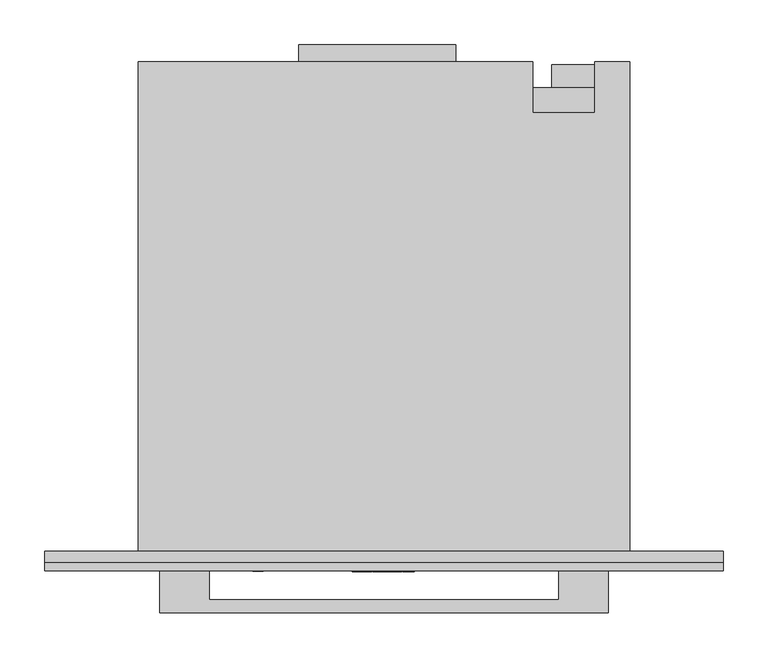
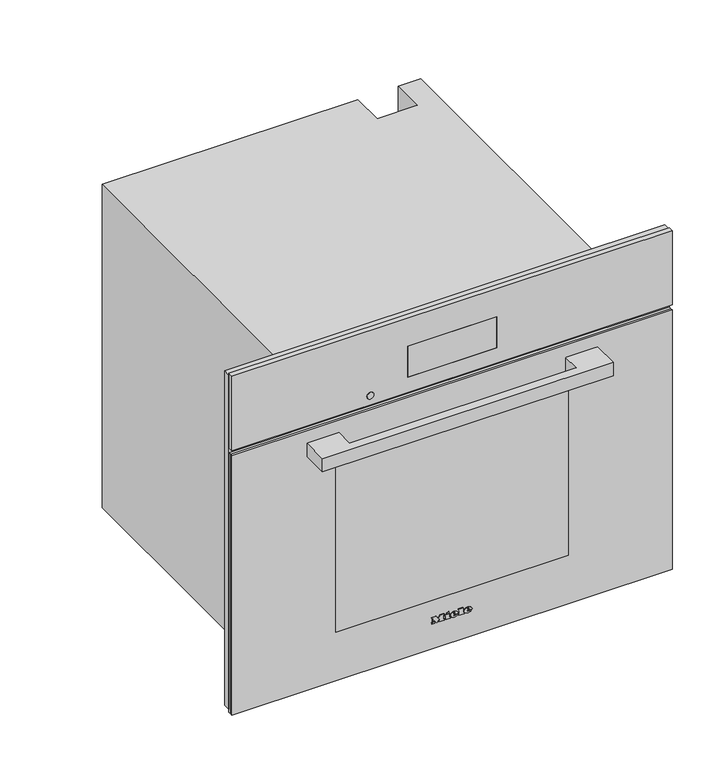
"""IFC4 building model written with IfcOpenShell, lengths in millimetres: proxy geometry, 11876420_USA_DGC7880_OBSW : 23788023_USA_11876420_DGC7880_OBSW."""

from ifc_helpers import new_model, si_unit, point, frame, frame_2d, origin, place, context, project, spatial, polyline, circle_curve, ellipse_curve, trimmed, segment, composite_curve, outline, extrude, faceted_brep, source, transform, mapped, element, save
from ifc_brep_helpers import plane_surface, cylinder_surface, revolved_surface, extruded_surface, advanced_brep


def specialty_equipment_2a973225(model_context):
    return source(origin(), model_context, "Body", "SolidModel", [
        faceted_brep([(378.5, -13.0, 617.0), (-378.5, -13.0, 617.0), (-378.5, -13.0, 9.0), (-272.5, -13.0, 9.0), (-272.5, -13.0, 485.0), (272.5, -13.0, 485.0), (272.5, -13.0, 9.0), (378.5, -13.0, 9.0), (378.5, 0.0, 617.0), (378.5, 0.0, 9.0), (-378.5, 0.0, 9.0), (-378.5, 0.0, 617.0), (231.0, 0.0, 61.0), (231.0, 0.0, 411.0), (-231.0, 0.0, 411.0), (-231.0, 0.0, 61.0), (272.5, -5.0, 9.0), (-272.5, -5.0, 9.0), (-272.5, -5.0, 485.0), (272.5, -5.0, 485.0), (231.0, -5.0, 411.0), (231.0, -5.0, 61.0), (-231.0, -5.0, 61.0), (-231.0, -5.0, 411.0)], [[[0, 1, 2, 3, 4, 5, 6, 7]], [[8, 9, 10, 11], [12, 13, 14, 15]], [[1, 0, 8, 11]], [[2, 1, 11, 10]], [[10, 9, 7, 6, 16, 17, 3, 2]], [[0, 7, 9, 8]], [[18, 19, 5, 4]], [[18, 4, 3, 17]], [[5, 19, 16, 6]], [[19, 18, 17, 16], [20, 21, 22, 23]], [[20, 13, 12, 21]], [[21, 12, 15, 22]], [[22, 15, 14, 23]], [[13, 20, 23, 14]]]),
        extrude(outline(polyline([(-95.0, 565.0), (80.0, 565.0), (80.0, 546.0), (-95.0, 546.0), (-95.0, 565.0)])), frame((0.0, 0.0, 311.0), z_axis=(0.0, 0.0, 1.0), x_axis=(1.0, 0.0, 0.0)), (0.0, 0.0, 1.0), 1.0),
        extrude(outline(polyline([(218.8383288, 522.0), (225.1236409, 522.0), (225.1236409, 511.9492425), (223.8571792, 511.9492425), (223.8571792, 520.7409796), (218.8383288, 520.7409796), (218.8383288, 522.0)])), frame((0.0, 0.0, 272.0), z_axis=(0.0, 0.0, 1.0), x_axis=(1.0, 0.0, 0.0)), (0.0, 0.0, 1.0), 1.0),
        extrude(outline(polyline([(227.0, 522.0), (234.3797826, 522.0), (234.3797826, 511.9503529), (227.15422, 511.9503529), (227.15422, 513.220938), (233.1355215, 513.220938), (233.1355215, 516.1975645), (227.4863097, 516.1975645), (227.4863097, 517.449242), (233.1355215, 517.449242), (233.1355215, 520.7448633), (227.0, 520.7448633), (227.0, 522.0)])), frame((0.0, 0.0, 272.0), z_axis=(0.0, 0.0, 1.0), x_axis=(1.0, 0.0, 0.0)), (0.0, 0.0, 1.0), 1.0),
        extrude(outline(composite_curve([segment(trimmed(circle_curve(frame_2d((227.0, 517.0)), 7.5), [point((219.5, 517.0))], [point((234.5, 517.0))], False, "CARTESIAN"), True, "CONTINUOUS"), segment(trimmed(circle_curve(frame_2d((227.0, 517.0)), 7.5), [point((234.5, 517.0))], [point((219.5, 517.0))], False, "CARTESIAN"), True, "CONTINUOUS")], self_intersect=False)), frame((0.0, 0.0, 273.0), z_axis=(0.0, 0.0, 1.0), x_axis=(1.0, 0.0, 0.0)), (0.0, 0.0, 1.0), 30.0),
        extrude(outline(polyline([(266.0, 517.0), (187.0, 517.0), (187.0, 543.0), (266.0, 543.0), (266.0, 517.0)])), frame((0.0, 0.0, 303.0), z_axis=(0.0, 0.0, 1.0), x_axis=(1.0, 0.0, 0.0)), (0.0, 0.0, 1.0), 111.0),
        faceted_brep([(-274.0, 546.0, 0.0), (-274.0, 546.0, 588.0), (166.0, 546.0, 588.0), (166.0, 546.0, 0.0), (235.0, 546.0, 588.0), (274.0, 546.0, 588.0), (274.0, 546.0, 478.0), (235.0, 546.0, 478.0), (274.0, 0.0, 588.0), (-274.0, 0.0, 588.0), (-274.0, 0.0, 0.0), (274.0, 0.0, 0.0), (231.0, 0.0, 411.0), (231.0, 0.0, 61.0), (-231.0, 0.0, 61.0), (-231.0, 0.0, 411.0), (235.0, 489.0, 588.0), (166.0, 489.0, 588.0), (166.0, 517.0, 0.0), (274.0, 517.0, 0.0), (274.0, 517.0, 478.0), (231.0, 411.0, 411.0), (-231.0, 411.0, 411.0), (-231.0, 411.0, 61.0), (231.0, 411.0, 61.0), (235.0, 489.0, 477.0), (166.0, 489.0, 477.0), (166.0, 517.0, 477.0), (235.0, 517.0, 477.0), (235.0, 517.0, 478.0)], [[[0, 1, 2, 3]], [[4, 5, 6, 7]], [[8, 9, 10, 11], [12, 13, 14, 15]], [[9, 8, 5, 4, 16, 17, 2, 1]], [[1, 0, 10, 9]], [[11, 10, 0, 3, 18, 19]], [[8, 11, 19, 20, 6, 5]], [[21, 22, 23, 24]], [[21, 24, 13, 12]], [[24, 23, 14, 13]], [[23, 22, 15, 14]], [[22, 21, 12, 15]], [[16, 25, 26, 17]], [[17, 26, 27, 18, 3, 2]], [[26, 25, 28, 27]], [[25, 16, 4, 7, 29, 28]], [[29, 20, 19, 18, 27, 28]], [[20, 29, 7, 6]]]),
        advanced_brep(
        [(26.2998, -23.0, 52.7018), (26.2998, -23.0, 53.8532), (33.9264, -23.0, 53.8532), (20.6568, -23.0, 53.8532), (23.7918, -23.0, 50.0), (33.7326, -23.0, 52.7018), (30.2898, -23.0, 52.7018), (27.5766, -23.0, 51.425), (26.2998, -23.0, 55.3124), (26.2998, -23.0, 56.555), (28.2492, -23.0, 56.555), (28.2492, -23.0, 55.3124), (26.2998, -22.0, 52.7018), (27.5766, -22.0, 51.425), (30.2898, -22.0, 52.7018), (33.7326, -22.0, 52.7018), (23.7918, -22.0, 50.0), (20.6568, -22.0, 53.8532), (33.9264, -22.0, 53.8532), (26.2998, -22.0, 53.8532), (26.2998, -22.0, 55.3124), (28.2492, -22.0, 55.3124), (28.2492, -22.0, 56.555), (26.2998, -22.0, 56.555)],
        [
            (0, 1),
            (1, 2),
            (2, 3, ellipse_curve(frame((27.2916, -23.0, 53.8532), z_axis=(0.0, -1.0, 0.0), x_axis=(-1.0, 0.0, 0.0)), 6.6348, 5.4834)),
            (3, 4, circle_curve(frame((25.0686622, -23.0, 54.2408), z_axis=(0.0, -1.0, 0.0), x_axis=(0.0, 0.0, -1.0)), 4.4288556)),
            (4, 5, circle_curve(frame((27.1587808, -23.0, 57.2504), z_axis=(0.0, -1.0, 0.0), x_axis=(0.0, 0.0, -1.0)), 7.9940516)),
            (5, 6),
            (6, 7, circle_curve(frame((28.1338588, -23.0, 53.762), z_axis=(0.0, 1.0, 0.0), x_axis=(0.0, 0.0, -1.0)), 2.4025208)),
            (7, 0, circle_curve(frame((27.5766, -23.0, 52.7018), z_axis=(0.0, 1.0, 0.0), x_axis=(0.0, 0.0, -1.0)), 1.2768)),
            (8, 9),
            (9, 10, circle_curve(frame((27.2745, -23.0, 56.555), z_axis=(0.0, 1.0, 0.0), x_axis=(0.0, 0.0, -1.0)), 0.9747)),
            (10, 11),
            (11, 8),
            (12, 13, circle_curve(frame((27.5766, -22.0, 52.7018), z_axis=(0.0, -1.0, 0.0), x_axis=(0.0, 0.0, -1.0)), 1.2768)),
            (13, 14, circle_curve(frame((28.1338588, -22.0, 53.762), z_axis=(0.0, -1.0, 0.0), x_axis=(0.0, 0.0, -1.0)), 2.4025208)),
            (14, 15),
            (15, 16, circle_curve(frame((27.1587808, -22.0, 57.2504), z_axis=(0.0, 1.0, 0.0), x_axis=(0.0, 0.0, -1.0)), 7.9940516)),
            (16, 17, circle_curve(frame((25.0686622, -22.0, 54.2408), z_axis=(0.0, 1.0, 0.0), x_axis=(0.0, 0.0, -1.0)), 4.4288556)),
            (17, 18, ellipse_curve(frame((27.2916, -22.0, 53.8532), z_axis=(0.0, 1.0, 0.0), x_axis=(-1.0, 0.0, 0.0)), 6.6348, 5.4834)),
            (18, 19),
            (19, 12),
            (20, 21),
            (21, 22),
            (22, 23, circle_curve(frame((27.2745, -22.0, 56.555), z_axis=(0.0, -1.0, 0.0), x_axis=(0.0, 0.0, -1.0)), 0.9747)),
            (23, 20),
            (0, 12),
            (19, 1),
            (18, 2),
            (5, 15),
            (14, 6),
            (17, 3),
            (13, 7),
            (16, 4),
            (8, 20),
            (23, 9),
            (22, 10),
            (21, 11),
        ],
        [
            plane_surface(frame((26.2998, -23.0, 53.8532), z_axis=(0.0, -1.0, 0.0), x_axis=(0.0, 0.0, 1.0))),
            plane_surface(frame((26.2998, -22.0, 53.8532), z_axis=(0.0, 1.0, 0.0), x_axis=(0.0, 0.0, -1.0))),
            plane_surface(frame((26.2998, -23.0, 52.7018), z_axis=(1.0, 0.0, 0.0), x_axis=(0.0, 1.0, 0.0))),
            plane_surface(frame((26.2998, -23.0, 53.8532), z_axis=(0.0, 0.0, -1.0), x_axis=(0.0, 1.0, 0.0))),
            plane_surface(frame((33.7326, -23.0, 52.7018), z_axis=(0.0, 0.0, 1.0), x_axis=(0.0, 1.0, 0.0))),
            extruded_surface(trimmed(ellipse_curve(frame((27.2916, -21.0, 53.8532), z_axis=(0.0, -1.0, 0.0), x_axis=(-1.0, 0.0, 0.0)), 6.6348, 5.4834), [point((33.9264, -21.0, 53.8532))], [point((20.6568, -21.0, 53.8532))], True, "CARTESIAN"), (0.0, -1.0, 0.0), 1.0),
            revolved_surface(polyline([(28.1338588, -22.0, 51.3594792), (28.1338588, -23.0, 51.3594792)]), (28.1338588, -22.0, 53.762), (0.0, 1.0, 0.0)),
            revolved_surface(polyline([(27.5766, -22.0, 51.425), (27.5766, -23.0, 51.425)]), (27.5766, -22.0, 52.7018), (0.0, 1.0, 0.0)),
            cylinder_surface(frame((25.0686622, -22.0, 54.2408), z_axis=(0.0, -1.0, 0.0), x_axis=(0.0, 0.0, -1.0)), 4.4288556),
            cylinder_surface(frame((27.1587808, -22.0, 57.2504), z_axis=(0.0, -1.0, 0.0), x_axis=(0.0, 0.0, -1.0)), 7.9940516),
            plane_surface(frame((26.2998, -23.0, 55.3124), z_axis=(1.0, 0.0, 0.0), x_axis=(0.0, 1.0, 0.0))),
            revolved_surface(polyline([(27.2745, -22.0, 55.5803), (27.2745, -23.0, 55.5803)]), (27.2745, -22.0, 56.555), (0.0, 1.0, 0.0)),
            plane_surface(frame((28.2492, -23.0, 56.555), z_axis=(-1.0, 0.0, 0.0), x_axis=(0.0, 1.0, 0.0))),
            plane_surface(frame((28.2492, -23.0, 55.3124), z_axis=(0.0, 0.0, 1.0), x_axis=(0.0, 1.0, 0.0))),
        ],
        [
            (0, [[1, 2, 3, 4, 5, 6, 7, 8], [9, 10, 11, 12]]),
            (1, [[13, 14, 15, 16, 17, 18, 19, 20], [21, 22, 23, 24]]),
            (2, [[-1, 25, -20, 26]]),
            (3, [[-2, -26, -19, 27]]),
            (4, [[-6, 28, -15, 29]]),
            (5, [[-3, -27, -18, 30]]),
            (6, [[-7, -29, -14, 31]]),
            (7, [[-8, -31, -13, -25]]),
            (8, [[-4, -30, -17, 32]]),
            (9, [[-5, -32, -16, -28]]),
            (10, [[-9, 33, -24, 34]]),
            (11, [[-10, -34, -23, 35]]),
            (12, [[-11, -35, -22, 36]]),
            (13, [[-12, -36, -21, -33]]),
        ],
    ),
        advanced_brep(
        [(2.508, -23.0, 52.7018), (2.508, -23.0, 53.8532), (10.1346, -23.0, 53.8532), (-3.135, -23.0, 53.8532), (0.0, -23.0, 50.0), (9.9408, -23.0, 52.7018), (6.498, -23.0, 52.7018), (3.7848, -23.0, 51.425), (2.508, -23.0, 55.3124), (2.508, -23.0, 56.555), (4.4574, -23.0, 56.555), (4.4574, -23.0, 55.3124), (2.508, -22.0, 52.7018), (3.7848, -22.0, 51.425), (6.498, -22.0, 52.7018), (9.9408, -22.0, 52.7018), (0.0, -22.0, 50.0), (-3.135, -22.0, 53.8532), (10.1346, -22.0, 53.8532), (2.508, -22.0, 53.8532), (2.508, -22.0, 55.3124), (4.4574, -22.0, 55.3124), (4.4574, -22.0, 56.555), (2.508, -22.0, 56.555)],
        [
            (0, 1),
            (1, 2),
            (2, 3, ellipse_curve(frame((3.4998, -23.0, 53.8532), z_axis=(0.0, -1.0, 0.0), x_axis=(-1.0, 0.0, 0.0)), 6.6348, 5.4834)),
            (3, 4, circle_curve(frame((1.2768622, -23.0, 54.2408), z_axis=(0.0, -1.0, 0.0), x_axis=(0.0, 0.0, -1.0)), 4.4288556)),
            (4, 5, circle_curve(frame((3.3669808, -23.0, 57.2504), z_axis=(0.0, -1.0, 0.0), x_axis=(0.0, 0.0, -1.0)), 7.9940516)),
            (5, 6),
            (6, 7, circle_curve(frame((4.3420588, -23.0, 53.762), z_axis=(0.0, 1.0, 0.0), x_axis=(0.0, 0.0, -1.0)), 2.4025208)),
            (7, 0, circle_curve(frame((3.7848, -23.0, 52.7018), z_axis=(0.0, 1.0, 0.0), x_axis=(0.0, 0.0, -1.0)), 1.2768)),
            (8, 9),
            (9, 10, circle_curve(frame((3.4827, -23.0, 56.555), z_axis=(0.0, 1.0, 0.0), x_axis=(0.0, 0.0, -1.0)), 0.9747)),
            (10, 11),
            (11, 8),
            (12, 13, circle_curve(frame((3.7848, -22.0, 52.7018), z_axis=(0.0, -1.0, 0.0), x_axis=(0.0, 0.0, -1.0)), 1.2768)),
            (13, 14, circle_curve(frame((4.3420588, -22.0, 53.762), z_axis=(0.0, -1.0, 0.0), x_axis=(0.0, 0.0, -1.0)), 2.4025208)),
            (14, 15),
            (15, 16, circle_curve(frame((3.3669808, -22.0, 57.2504), z_axis=(0.0, 1.0, 0.0), x_axis=(0.0, 0.0, -1.0)), 7.9940516)),
            (16, 17, circle_curve(frame((1.2768622, -22.0, 54.2408), z_axis=(0.0, 1.0, 0.0), x_axis=(0.0, 0.0, -1.0)), 4.4288556)),
            (17, 18, ellipse_curve(frame((3.4998, -22.0, 53.8532), z_axis=(0.0, 1.0, 0.0), x_axis=(-1.0, 0.0, 0.0)), 6.6348, 5.4834)),
            (18, 19),
            (19, 12),
            (20, 21),
            (21, 22),
            (22, 23, circle_curve(frame((3.4827, -22.0, 56.555), z_axis=(0.0, -1.0, 0.0), x_axis=(0.0, 0.0, -1.0)), 0.9747)),
            (23, 20),
            (0, 12),
            (19, 1),
            (18, 2),
            (5, 15),
            (14, 6),
            (17, 3),
            (13, 7),
            (16, 4),
            (8, 20),
            (23, 9),
            (22, 10),
            (21, 11),
        ],
        [
            plane_surface(frame((2.508, -23.0, 53.8532), z_axis=(0.0, -1.0, 0.0), x_axis=(0.0, 0.0, 1.0))),
            plane_surface(frame((2.508, -22.0, 53.8532), z_axis=(0.0, 1.0, 0.0), x_axis=(0.0, 0.0, -1.0))),
            plane_surface(frame((2.508, -23.0, 52.7018), z_axis=(1.0, 0.0, 0.0), x_axis=(0.0, 1.0, 0.0))),
            plane_surface(frame((2.508, -23.0, 53.8532), z_axis=(0.0, 0.0, -1.0), x_axis=(0.0, 1.0, 0.0))),
            plane_surface(frame((9.9408, -23.0, 52.7018), z_axis=(0.0, 0.0, 1.0), x_axis=(0.0, 1.0, 0.0))),
            extruded_surface(trimmed(ellipse_curve(frame((3.4998, -21.0, 53.8532), z_axis=(0.0, -1.0, 0.0), x_axis=(-1.0, 0.0, 0.0)), 6.6348, 5.4834), [point((10.1346, -21.0, 53.8532))], [point((-3.135, -21.0, 53.8532))], True, "CARTESIAN"), (0.0, -1.0, 0.0), 1.0),
            revolved_surface(polyline([(4.3420588, -22.0, 51.3594792), (4.3420588, -23.0, 51.3594792)]), (4.3420588, -22.0, 53.762), (0.0, 1.0, 0.0)),
            revolved_surface(polyline([(3.7848, -22.0, 51.425), (3.7848, -23.0, 51.425)]), (3.7848, -22.0, 52.7018), (0.0, 1.0, 0.0)),
            cylinder_surface(frame((1.2768622, -22.0, 54.2408), z_axis=(0.0, -1.0, 0.0), x_axis=(0.0, 0.0, -1.0)), 4.4288556),
            cylinder_surface(frame((3.3669808, -22.0, 57.2504), z_axis=(0.0, -1.0, 0.0), x_axis=(0.0, 0.0, -1.0)), 7.9940516),
            plane_surface(frame((2.508, -23.0, 55.3124), z_axis=(1.0, 0.0, 0.0), x_axis=(0.0, 1.0, 0.0))),
            revolved_surface(polyline([(3.4827, -22.0, 55.5803), (3.4827, -23.0, 55.5803)]), (3.4827, -22.0, 56.555), (0.0, 1.0, 0.0)),
            plane_surface(frame((4.4574, -23.0, 56.555), z_axis=(-1.0, 0.0, 0.0), x_axis=(0.0, 1.0, 0.0))),
            plane_surface(frame((4.4574, -23.0, 55.3124), z_axis=(0.0, 0.0, 1.0), x_axis=(0.0, 1.0, 0.0))),
        ],
        [
            (0, [[1, 2, 3, 4, 5, 6, 7, 8], [9, 10, 11, 12]]),
            (1, [[13, 14, 15, 16, 17, 18, 19, 20], [21, 22, 23, 24]]),
            (2, [[-1, 25, -20, 26]]),
            (3, [[-2, -26, -19, 27]]),
            (4, [[-6, 28, -15, 29]]),
            (5, [[-3, -27, -18, 30]]),
            (6, [[-7, -29, -14, 31]]),
            (7, [[-8, -31, -13, -25]]),
            (8, [[-4, -30, -17, 32]]),
            (9, [[-5, -32, -16, -28]]),
            (10, [[-9, 33, -24, 34]]),
            (11, [[-10, -34, -23, 35]]),
            (12, [[-11, -35, -22, 36]]),
            (13, [[-12, -36, -21, -33]]),
        ],
    ),
        extrude(outline(polyline([(60.7274, -9.9522), (58.8806, -9.0858), (60.6818, -5.2212), (62.5286, -6.0762), (60.7274, -9.9522)])), frame((0.0, -23.0, 0.0), z_axis=(0.0, 1.0, 0.0), x_axis=(0.0, 0.0, 1.0)), (0.0, 0.0, 1.0), 1.0),
        extrude(outline(polyline([(58.6298, -12.768), (56.5892, -12.768), (56.5892, -11.4114), (51.9152, -11.4114), (51.9152, -12.768), (50.0, -12.768), (50.0, -3.7734), (51.9152, -3.7734), (51.9152, -5.0958), (58.6298, -5.0958), (58.6298, -12.768)])), frame((0.0, -23.0, 0.0), z_axis=(0.0, 1.0, 0.0), x_axis=(0.0, 0.0, 1.0)), (0.0, 0.0, 1.0), 1.0),
        extrude(outline(polyline([(59.5418, 10.773), (59.5418, 12.141), (51.9152, 12.141), (51.9152, 10.773), (50.0, 10.773), (50.0, 20.0184), (51.9152, 20.0184), (51.9152, 18.6162), (61.4, 18.6162), (61.4, 10.773), (59.5418, 10.773)])), frame((0.0, -23.0, 0.0), z_axis=(0.0, 1.0, 0.0), x_axis=(0.0, 0.0, 1.0)), (0.0, 0.0, 1.0), 1.0),
        extrude(outline(polyline([(59.5418, -35.4882), (59.5418, -34.1088), (51.9152, -34.1088), (51.9152, -35.4882), (50.0, -35.4882), (50.0, -30.4722), (51.9152, -30.4722), (51.9152, -31.8402), (56.7429247, -31.8402), (50.0, -26.7444), (56.9402223, -21.6258), (51.9152, -21.6258), (51.9152, -23.028), (50.0, -23.028), (50.0, -13.9308), (51.9152, -13.9308), (51.9152, -15.3786), (59.5418, -15.3786), (59.5418, -13.9308), (61.4, -13.9308), (61.4, -20.8734), (57.125, -24.2022), (61.4, -27.5424), (61.4, -35.4882), (59.5418, -35.4882)])), frame((0.0, -23.0, 0.0), z_axis=(0.0, 1.0, 0.0), x_axis=(0.0, 0.0, 1.0)), (0.0, 0.0, 1.0), 1.0),
        extrude(outline(composite_curve([segment(trimmed(circle_curve(frame_2d((502.0, -140.5745637)), 6.0), [point((502.0, -146.5745637))], [point((502.0, -134.5745637))], False, "CARTESIAN"), True, "CONTINUOUS"), segment(trimmed(circle_curve(frame_2d((502.0, -140.5745637)), 6.0), [point((502.0, -134.5745637))], [point((502.0, -146.5745637))], False, "CARTESIAN"), True, "CONTINUOUS")], self_intersect=False)), frame((0.0, -22.5, 0.0), z_axis=(0.0, 1.0, 0.0), x_axis=(0.0, 0.0, 1.0)), (0.0, 0.0, 1.0), 1.0),
        extrude(outline(polyline([(-76.5, -21.0), (76.5, -21.0), (76.5, -22.0), (-76.5, -22.0), (-76.5, -21.0)])), frame((0.0, 0.0, 513.0), z_axis=(0.0, 0.0, 1.0), x_axis=(1.0, 0.0, 0.0)), (0.0, 0.0, 1.0), 56.0),
        faceted_brep([(378.5, -22.0, 620.0), (-378.5, -22.0, 620.0), (-378.5, -22.0, 485.0), (378.5, -22.0, 485.0), (76.5, -22.0, 569.0), (76.5, -22.0, 513.0), (-76.5, -22.0, 513.0), (-76.5, -22.0, 569.0), (378.5, -13.0, 620.0), (378.5, -13.0, 485.0), (-378.5, -13.0, 485.0), (-378.5, -13.0, 620.0), (76.5, -21.0, 569.0), (-76.5, -21.0, 569.0), (-76.5, -21.0, 513.0), (76.5, -21.0, 513.0)], [[[0, 1, 2, 3], [4, 5, 6, 7]], [[8, 9, 10, 11]], [[1, 0, 8, 11]], [[2, 1, 11, 10]], [[3, 2, 10, 9]], [[0, 3, 9, 8]], [[12, 13, 14, 15]], [[12, 15, 5, 4]], [[15, 14, 6, 5]], [[14, 13, 7, 6]], [[13, 12, 4, 7]]]),
        extrude(outline(polyline([(200.0, -22.0), (-200.0, -22.0), (-200.0, -18.0), (200.0, -18.0), (200.0, -22.0)])), frame((0.0, 0.0, 92.5), z_axis=(0.0, 0.0, 1.0), x_axis=(1.0, 0.0, 0.0)), (0.0, 0.0, 1.0), 300.0),
        extrude(outline(polyline([(476.0, 378.5), (476.0, -378.5), (4.0, -378.5), (4.0, 378.5), (476.0, 378.5)]), holes=[polyline([(392.5, -200.0), (392.5, 200.0), (92.5, 200.0), (92.5, -200.0), (392.5, -200.0)])]), frame((0.0, -22.0, 0.0), z_axis=(0.0, 1.0, 0.0), x_axis=(0.0, 0.0, 1.0)), (0.0, 0.0, 1.0), 4.0),
        extrude(outline(polyline([(-250.0, -69.0), (-250.0, -22.0), (-195.0, -22.0), (-195.0, -54.0), (195.0, -54.0), (195.0, -22.0), (250.0, -22.0), (250.0, -69.0), (-250.0, -69.0)])), frame((0.0, 0.0, 430.0), z_axis=(0.0, 0.0, 1.0), x_axis=(1.0, 0.0, 0.0)), (0.0, 0.0, 1.0), 24.0),
        extrude(outline(polyline([(378.5, -18.0), (-378.5, -18.0), (-378.5, -13.0), (378.5, -13.0), (378.5, -18.0)])), frame((0.0, 0.0, 4.0), z_axis=(0.0, 0.0, 1.0), x_axis=(1.0, 0.0, 0.0)), (0.0, 0.0, 1.0), 472.0),
    ])


if __name__ == "__main__":
    model = new_model("IFC4")
    model_context = context("Model", 3, world=origin())
    ifc_project = project(units=[si_unit("LENGTHUNIT", "METRE", prefix="MILLI")], contexts=[model_context])
    site = spatial("IfcSite", under=ifc_project)
    building = spatial("IfcBuilding", under=site)
    placement = place(None, origin())
    specialty_equipment_shape = specialty_equipment_2a973225(model_context)
    element("IfcBuildingElementProxy", 1, Name="11876420_USA_DGC7880_OBSW : 23788023_USA_11876420_DGC7880_OBSW", ObjectType="11876420_USA_DGC7880_OBSW : 23788023_USA_11876420_DGC7880_OBSW", at=placement, inside=building, context=model_context, shape_type="MappedRepresentation", body=[
        mapped(specialty_equipment_shape, transform((0.0, 0.0, 0.0), x_axis=(1.0, 0.0, 0.0), y_axis=(0.0, 1.0, 0.0), z_axis=(0.0, 0.0, 1.0))),
    ])
    save(model, "model.ifc")
